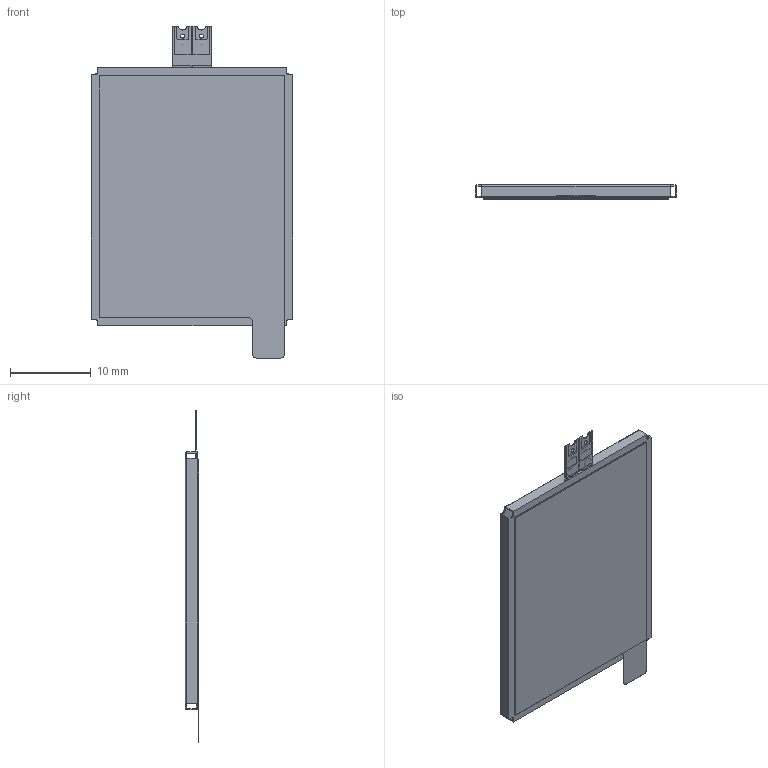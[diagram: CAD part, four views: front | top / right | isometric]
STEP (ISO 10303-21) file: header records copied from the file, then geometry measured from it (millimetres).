
FILE_DESCRIPTION (( 'STEP AP214' ), '1' );
FILE_NAME ('PRODUCT_AFDA.STEP', '2026-02-19T07:34:47', ( '' ), ( '' ), 'SwSTEP 2.0', 'SolidWorks 2025', '' );
FILE_SCHEMA (( 'AUTOMOTIVE_DESIGN' ));
Length unit declared in the file: millimetre
Products named in the file (3): PRODUCT_AFDA; ADHESIVE_FILM_AFDA_default; PRODUCT_AFDA2
Assembly tree (2 placements, depth 2):
  PRODUCT_AFDA
    PRODUCT_AFDA2
    ADHESIVE_FILM_AFDA_default
Bounding box: 25 x 1.73 x 41.2 mm (x, y, z)
Volume: 933.8 mm3; surface area: 5311.5 mm2
Topology: 3 solids, 3 shells, 423 faces, 1162 edges, 744 vertices
Faces by surface type: plane 225, cylinder 174, torus 24
Entity records: 13635 total; most frequent: CARTESIAN_POINT 2460, DIRECTION 2374, ORIENTED_EDGE 2324, EDGE_CURVE 1162, AXIS2_PLACEMENT_3D 800, LINE 774, VECTOR 774, VERTEX_POINT 744
